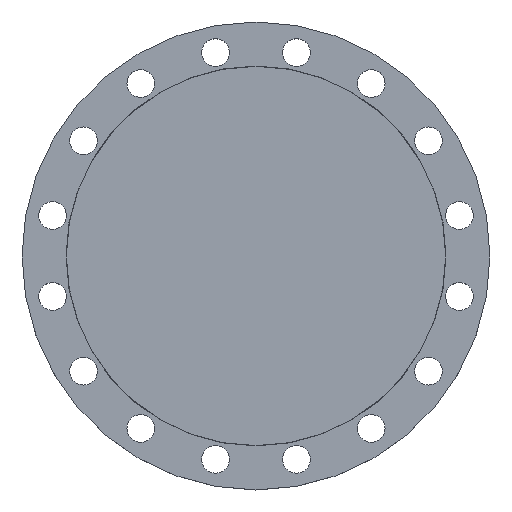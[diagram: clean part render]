
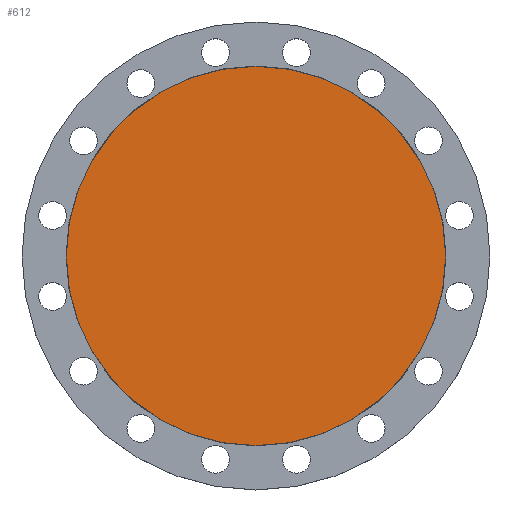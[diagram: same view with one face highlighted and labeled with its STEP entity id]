
A CAD part, top view. The second image highlights one B-rep face of the part: STEP entity #612.
In plain terms, the highlighted planar face has unit normal (0, 0, 1).
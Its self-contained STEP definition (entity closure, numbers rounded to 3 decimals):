
#204 = DIRECTION ( 'NONE',  ( -1., 0., 0. ) ) ;
#205 = DIRECTION ( 'NONE',  ( 0., 0., -1. ) ) ;
#206 = CARTESIAN_POINT ( 'NONE',  ( 0., 0., 0. ) ) ;
#303 = CARTESIAN_POINT ( 'NONE',  ( -267.5, 0., 0. ) ) ;
#387 = DIRECTION ( 'NONE',  ( -1., 0., 0. ) ) ;
#388 = DIRECTION ( 'NONE',  ( 0., 0., -1. ) ) ;
#389 = CARTESIAN_POINT ( 'NONE',  ( 0., 0., 0. ) ) ;
#496 = CARTESIAN_POINT ( 'NONE',  ( 267.5, 0., 0. ) ) ;
#612 = ADVANCED_FACE ( 'NONE', ( #712 ), #710, .T. ) ;
#627 = CIRCLE ( 'NONE', #1261, 267.5 ) ;
#706 = DIRECTION ( 'NONE',  ( 1., 0., 0. ) ) ;
#708 = DIRECTION ( 'NONE',  ( 0., 0., 1. ) ) ;
#709 = CARTESIAN_POINT ( 'NONE',  ( 0., 0., 0. ) ) ;
#710 = PLANE ( 'NONE',  #1446 ) ;
#712 = FACE_OUTER_BOUND ( 'NONE', #1107, .T. ) ;
#953 = VERTEX_POINT ( 'NONE', #496 ) ;
#1059 = EDGE_CURVE ( 'NONE', #953, #1117, #1069, .T. ) ;
#1069 = CIRCLE ( 'NONE', #1533, 267.5 ) ;
#1107 = EDGE_LOOP ( 'NONE', ( #1388, #1389 ) ) ;
#1117 = VERTEX_POINT ( 'NONE', #303 ) ;
#1261 = AXIS2_PLACEMENT_3D ( 'NONE', #206, #205, #204 ) ;
#1275 = EDGE_CURVE ( 'NONE', #1117, #953, #627, .T. ) ;
#1388 = ORIENTED_EDGE ( 'NONE', *, *, #1275, .F. ) ;
#1389 = ORIENTED_EDGE ( 'NONE', *, *, #1059, .F. ) ;
#1446 = AXIS2_PLACEMENT_3D ( 'NONE', #709, #708, #706 ) ;
#1533 = AXIS2_PLACEMENT_3D ( 'NONE', #389, #388, #387 ) ;
